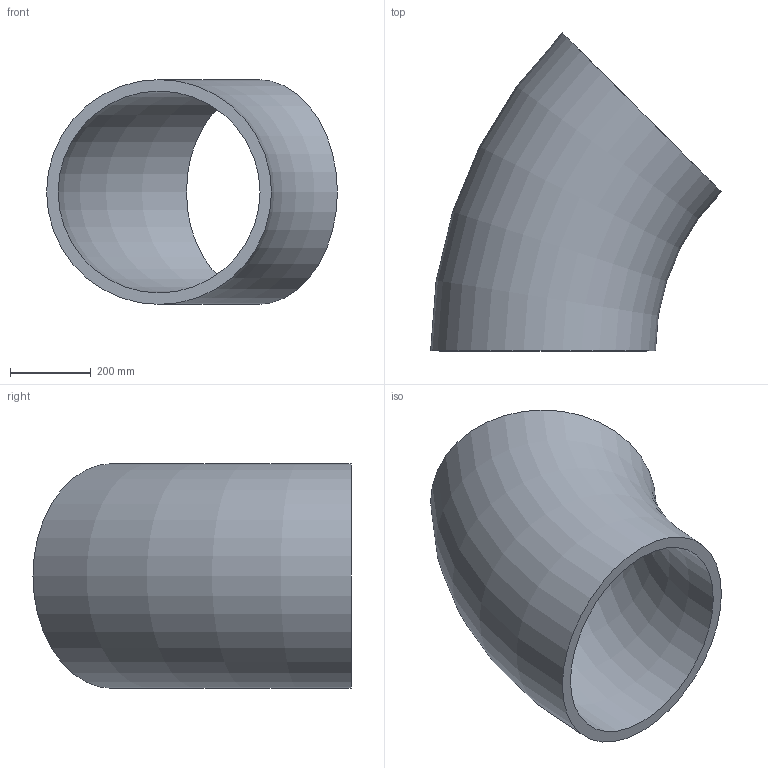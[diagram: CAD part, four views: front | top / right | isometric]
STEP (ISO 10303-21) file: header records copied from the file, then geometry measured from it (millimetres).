
FILE_DESCRIPTION(/* description */ (''),/* implementation_level */ '2;1');
FILE_NAME(/* name */ 'C:\Users\D\Documents\Inventor\HP\JIS\配管\エルボ ロング 45°\Sch80\Elbow45-long-550A-Sch80.stp',/* time_stamp */ '2022-06-08T17:03:15+09:00',/* author */ ('D'),/* organization */ (''),/* preprocessor_version */ 'ST-DEVELOPER v18',/* originating_system */ 'Autodesk Inventor 2020',/* authorisation */ '');
FILE_SCHEMA (('AP203_CONFIGURATION_CONTROLLED_3D_DESIGN_OF_MECHANICAL_PARTS_AND_ASSEMBLIES_MIM_LF { 1 0 10303 203 3 1 4 }','AUTOMOTIVE_DESIGN { 1 0 10303 214 3 1 1 }'));
Length unit declared in the file: millimetre
Products named in the file (1): Elbow-long-90-15A-SGP
Bounding box: 722.47 x 790.26 x 558.8 mm (x, y, z)
Volume: 31361235.7 mm3; surface area: 2288369.9 mm2
Topology: 1 solids, 1 shells, 4 faces, 10 edges, 8 vertices
Faces by surface type: torus 2, plane 2
Entity records: 181 total; most frequent: DIRECTION 30, CARTESIAN_POINT 23, ORIENTED_EDGE 20, AXIS2_PLACEMENT_3D 15, CIRCLE 10, EDGE_CURVE 10, VERTEX_POINT 8, EDGE_LOOP 6
